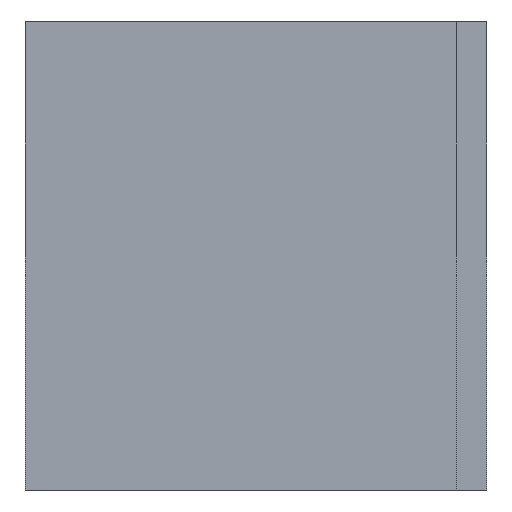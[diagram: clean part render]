
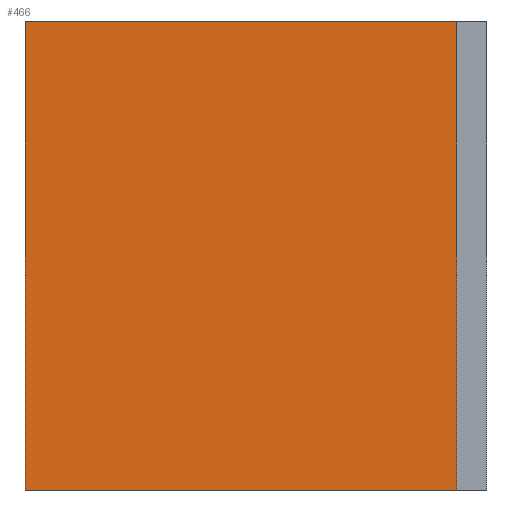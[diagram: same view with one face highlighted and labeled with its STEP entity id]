
A CAD part, left-side view. The second image highlights one B-rep face of the part: STEP entity #466.
In plain terms, the highlighted planar face has unit normal (-1, 0, 0).
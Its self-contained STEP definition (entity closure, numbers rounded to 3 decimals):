
#35 = CARTESIAN_POINT ( 'NONE',  ( -63., 76., -38.5 ) ) ;
#56 = DIRECTION ( 'NONE',  ( 0., 0., -1. ) ) ;
#73 = LINE ( 'NONE', #242, #587 ) ;
#78 = DIRECTION ( 'NONE',  ( 0., -1., 0. ) ) ;
#94 = LINE ( 'NONE', #510, #716 ) ;
#188 = CARTESIAN_POINT ( 'NONE',  ( -63., 76., -38.5 ) ) ;
#191 = VERTEX_POINT ( 'NONE', #246 ) ;
#205 = LINE ( 'NONE', #188, #788 ) ;
#217 = ORIENTED_EDGE ( 'NONE', *, *, #387, .F. ) ;
#234 = LINE ( 'NONE', #523, #551 ) ;
#242 = CARTESIAN_POINT ( 'NONE',  ( -63., 5., -38.5 ) ) ;
#246 = CARTESIAN_POINT ( 'NONE',  ( -63., 76., 38.5 ) ) ;
#262 = AXIS2_PLACEMENT_3D ( 'NONE', #797, #299, #56 ) ;
#269 = DIRECTION ( 'NONE',  ( 0., 0., 1. ) ) ;
#272 = ORIENTED_EDGE ( 'NONE', *, *, #638, .T. ) ;
#290 = PLANE ( 'NONE',  #262 ) ;
#299 = DIRECTION ( 'NONE',  ( 1., 0., 0. ) ) ;
#320 = VERTEX_POINT ( 'NONE', #35 ) ;
#343 = DIRECTION ( 'NONE',  ( 0., -1., 0. ) ) ;
#349 = DIRECTION ( 'NONE',  ( 0., 0., -1. ) ) ;
#372 = EDGE_LOOP ( 'NONE', ( #639, #217, #383, #272 ) ) ;
#383 = ORIENTED_EDGE ( 'NONE', *, *, #727, .F. ) ;
#387 = EDGE_CURVE ( 'NONE', #191, #774, #234, .T. ) ;
#390 = CARTESIAN_POINT ( 'NONE',  ( -63., 5., 38.5 ) ) ;
#448 = EDGE_CURVE ( 'NONE', #774, #760, #73, .T. ) ;
#457 = CARTESIAN_POINT ( 'NONE',  ( -63., 5., -38.5 ) ) ;
#466 = ADVANCED_FACE ( 'NONE', ( #603 ), #290, .F. ) ;
#510 = CARTESIAN_POINT ( 'NONE',  ( -63., 76., 38.5 ) ) ;
#523 = CARTESIAN_POINT ( 'NONE',  ( -63., 76., 38.5 ) ) ;
#551 = VECTOR ( 'NONE', #343, 1000. ) ;
#587 = VECTOR ( 'NONE', #349, 1000. ) ;
#603 = FACE_OUTER_BOUND ( 'NONE', #372, .T. ) ;
#638 = EDGE_CURVE ( 'NONE', #320, #760, #205, .T. ) ;
#639 = ORIENTED_EDGE ( 'NONE', *, *, #448, .F. ) ;
#716 = VECTOR ( 'NONE', #269, 1000. ) ;
#727 = EDGE_CURVE ( 'NONE', #320, #191, #94, .T. ) ;
#760 = VERTEX_POINT ( 'NONE', #457 ) ;
#774 = VERTEX_POINT ( 'NONE', #390 ) ;
#788 = VECTOR ( 'NONE', #78, 1000. ) ;
#797 = CARTESIAN_POINT ( 'NONE',  ( -63., 76., 38.5 ) ) ;
